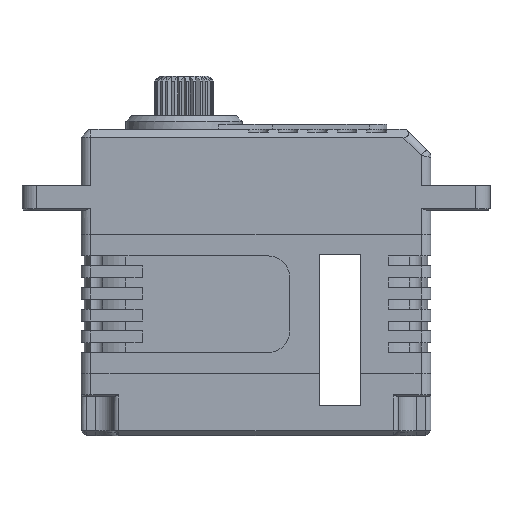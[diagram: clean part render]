
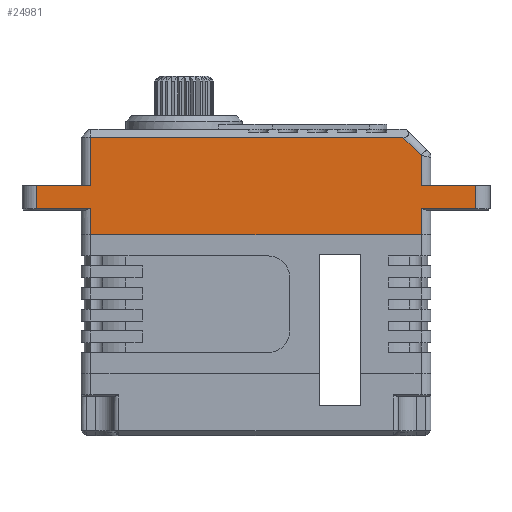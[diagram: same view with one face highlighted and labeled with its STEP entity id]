
A CAD part, front view. The second image highlights one B-rep face of the part: STEP entity #24981.
In plain terms, the highlighted planar face has unit normal (0, -1, 0).
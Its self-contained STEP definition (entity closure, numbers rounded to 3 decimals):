
#64 = ORIENTED_EDGE ( 'NONE', *, *, #11599, .F. ) ;
#111 = LINE ( 'NONE', #18619, #9368 ) ;
#465 = ORIENTED_EDGE ( 'NONE', *, *, #20512, .F. ) ;
#644 = VERTEX_POINT ( 'NONE', #13007 ) ;
#1227 = EDGE_CURVE ( 'NONE', #18849, #2101, #7349, .T. ) ;
#1274 = VERTEX_POINT ( 'NONE', #2397 ) ;
#1555 = DIRECTION ( 'NONE',  ( -1., 0., 0. ) ) ;
#1789 = AXIS2_PLACEMENT_3D ( 'NONE', #8162, #25172, #23428 ) ;
#2064 = VECTOR ( 'NONE', #9976, 1000. ) ;
#2101 = VERTEX_POINT ( 'NONE', #19856 ) ;
#2221 = DIRECTION ( 'NONE',  ( 0., 0., 1. ) ) ;
#2385 = DIRECTION ( 'NONE',  ( 1., 0., 0. ) ) ;
#2397 = CARTESIAN_POINT ( 'NONE',  ( -36.05, -4.874, 8.15 ) ) ;
#2658 = EDGE_CURVE ( 'NONE', #18849, #3050, #8868, .T. ) ;
#2711 = CARTESIAN_POINT ( 'NONE',  ( -30.55, -4.874, 10.5 ) ) ;
#2760 = ORIENTED_EDGE ( 'NONE', *, *, #4873, .T. ) ;
#2824 = CARTESIAN_POINT ( 'NONE',  ( -30.55, -4.874, 5.5 ) ) ;
#3050 = VERTEX_POINT ( 'NONE', #4105 ) ;
#3103 = ORIENTED_EDGE ( 'NONE', *, *, #12499, .T. ) ;
#3805 = VERTEX_POINT ( 'NONE', #6423 ) ;
#4105 = CARTESIAN_POINT ( 'NONE',  ( -75.05, -4.874, 8.15 ) ) ;
#4873 = EDGE_CURVE ( 'NONE', #17244, #25056, #20661, .T. ) ;
#5063 = LINE ( 'NONE', #8134, #26289 ) ;
#5482 = VERTEX_POINT ( 'NONE', #26456 ) ;
#6423 = CARTESIAN_POINT ( 'NONE',  ( -36.05, -4.874, 13.569 ) ) ;
#6494 = CARTESIAN_POINT ( 'NONE',  ( -36.05, -4.874, 5.5 ) ) ;
#6880 = VECTOR ( 'NONE', #23834, 1000. ) ;
#7205 = ORIENTED_EDGE ( 'NONE', *, *, #15274, .T. ) ;
#7349 = LINE ( 'NONE', #12612, #12368 ) ;
#7505 = LINE ( 'NONE', #8863, #23510 ) ;
#7744 = ORIENTED_EDGE ( 'NONE', *, *, #16196, .F. ) ;
#7822 = ORIENTED_EDGE ( 'NONE', *, *, #1227, .F. ) ;
#8134 = CARTESIAN_POINT ( 'NONE',  ( -70.55, -4.874, 15.4 ) ) ;
#8162 = CARTESIAN_POINT ( 'NONE',  ( -70.55, -4.874, 5.5 ) ) ;
#8863 = CARTESIAN_POINT ( 'NONE',  ( -69.55, -4.874, 10.5 ) ) ;
#8868 = LINE ( 'NONE', #26412, #27443 ) ;
#9000 = ORIENTED_EDGE ( 'NONE', *, *, #19468, .T. ) ;
#9368 = VECTOR ( 'NONE', #20471, 1000. ) ;
#9976 = DIRECTION ( 'NONE',  ( 0., 0., 1. ) ) ;
#10111 = LINE ( 'NONE', #19254, #25415 ) ;
#10236 = VERTEX_POINT ( 'NONE', #15387 ) ;
#10314 = PLANE ( 'NONE',  #1789 ) ;
#10345 = CARTESIAN_POINT ( 'NONE',  ( -70.55, -4.874, 8.15 ) ) ;
#10429 = DIRECTION ( 'NONE',  ( 1., 0., 0. ) ) ;
#11346 = DIRECTION ( 'NONE',  ( 0., 0., -1. ) ) ;
#11541 = VERTEX_POINT ( 'NONE', #20586 ) ;
#11599 = EDGE_CURVE ( 'NONE', #5482, #25356, #5063, .T. ) ;
#11929 = LINE ( 'NONE', #22117, #26818 ) ;
#12368 = VECTOR ( 'NONE', #14724, 1000. ) ;
#12492 = CARTESIAN_POINT ( 'NONE',  ( -69.55, -4.874, 5.5 ) ) ;
#12499 = EDGE_CURVE ( 'NONE', #3805, #25356, #11929, .T. ) ;
#12612 = CARTESIAN_POINT ( 'NONE',  ( -70.55, -4.874, 10.5 ) ) ;
#12982 = VECTOR ( 'NONE', #24357, 1000. ) ;
#13007 = CARTESIAN_POINT ( 'NONE',  ( -30.55, -4.874, 8.15 ) ) ;
#13357 = CARTESIAN_POINT ( 'NONE',  ( -36.05, -4.874, 5.5 ) ) ;
#13888 = ORIENTED_EDGE ( 'NONE', *, *, #22098, .T. ) ;
#13937 = EDGE_CURVE ( 'NONE', #1274, #644, #10111, .T. ) ;
#14232 = ORIENTED_EDGE ( 'NONE', *, *, #2658, .T. ) ;
#14724 = DIRECTION ( 'NONE',  ( 1., 0., 0. ) ) ;
#15274 = EDGE_CURVE ( 'NONE', #644, #17244, #15289, .T. ) ;
#15289 = LINE ( 'NONE', #2824, #12982 ) ;
#15387 = CARTESIAN_POINT ( 'NONE',  ( -69.55, -4.874, 5.5 ) ) ;
#16196 = EDGE_CURVE ( 'NONE', #2101, #5482, #7505, .T. ) ;
#16460 = CARTESIAN_POINT ( 'NONE',  ( -75.05, -4.874, 10.5 ) ) ;
#17108 = ORIENTED_EDGE ( 'NONE', *, *, #13937, .T. ) ;
#17244 = VERTEX_POINT ( 'NONE', #2711 ) ;
#17602 = ORIENTED_EDGE ( 'NONE', *, *, #24561, .T. ) ;
#18085 = FACE_OUTER_BOUND ( 'NONE', #19539, .T. ) ;
#18619 = CARTESIAN_POINT ( 'NONE',  ( -70.55, -4.874, 5.5 ) ) ;
#18849 = VERTEX_POINT ( 'NONE', #16460 ) ;
#19254 = CARTESIAN_POINT ( 'NONE',  ( -70.55, -4.874, 8.15 ) ) ;
#19468 = EDGE_CURVE ( 'NONE', #11541, #10236, #26072, .T. ) ;
#19539 = EDGE_LOOP ( 'NONE', ( #13888, #3103, #64, #7744, #7822, #14232, #17602, #9000, #465, #20780, #17108, #7205, #2760 ) ) ;
#19856 = CARTESIAN_POINT ( 'NONE',  ( -69.55, -4.874, 10.5 ) ) ;
#20471 = DIRECTION ( 'NONE',  ( -1., 0., 0. ) ) ;
#20512 = EDGE_CURVE ( 'NONE', #25486, #10236, #111, .T. ) ;
#20586 = CARTESIAN_POINT ( 'NONE',  ( -69.55, -4.874, 8.15 ) ) ;
#20661 = LINE ( 'NONE', #26644, #26934 ) ;
#20780 = ORIENTED_EDGE ( 'NONE', *, *, #24720, .T. ) ;
#22098 = EDGE_CURVE ( 'NONE', #25056, #3805, #25634, .T. ) ;
#22117 = CARTESIAN_POINT ( 'NONE',  ( -37.316, -4.874, 14.834 ) ) ;
#23129 = LINE ( 'NONE', #10345, #25412 ) ;
#23154 = CARTESIAN_POINT ( 'NONE',  ( -36.05, -4.874, 10.5 ) ) ;
#23165 = DIRECTION ( 'NONE',  ( 0., 0., -1. ) ) ;
#23428 = DIRECTION ( 'NONE',  ( 0., 0., 1. ) ) ;
#23510 = VECTOR ( 'NONE', #2221, 1000. ) ;
#23834 = DIRECTION ( 'NONE',  ( 0., 0., 1. ) ) ;
#24357 = DIRECTION ( 'NONE',  ( 0., 0., 1. ) ) ;
#24428 = VECTOR ( 'NONE', #23165, 1000. ) ;
#24505 = CARTESIAN_POINT ( 'NONE',  ( -36.05, -4.874, 5.5 ) ) ;
#24561 = EDGE_CURVE ( 'NONE', #3050, #11541, #23129, .T. ) ;
#24720 = EDGE_CURVE ( 'NONE', #25486, #1274, #26741, .T. ) ;
#24879 = DIRECTION ( 'NONE',  ( 1., 0., 0. ) ) ;
#24976 = CARTESIAN_POINT ( 'NONE',  ( -37.881, -4.874, 15.4 ) ) ;
#24981 = ADVANCED_FACE ( 'NONE', ( #18085 ), #10314, .F. ) ;
#25056 = VERTEX_POINT ( 'NONE', #23154 ) ;
#25172 = DIRECTION ( 'NONE',  ( 0., 1., 0. ) ) ;
#25356 = VERTEX_POINT ( 'NONE', #24976 ) ;
#25412 = VECTOR ( 'NONE', #10429, 1000. ) ;
#25415 = VECTOR ( 'NONE', #2385, 1000. ) ;
#25486 = VERTEX_POINT ( 'NONE', #6494 ) ;
#25634 = LINE ( 'NONE', #24505, #2064 ) ;
#26072 = LINE ( 'NONE', #12492, #24428 ) ;
#26289 = VECTOR ( 'NONE', #24879, 1000. ) ;
#26348 = DIRECTION ( 'NONE',  ( -0.707, 0., 0.707 ) ) ;
#26412 = CARTESIAN_POINT ( 'NONE',  ( -75.05, -4.874, 5.5 ) ) ;
#26456 = CARTESIAN_POINT ( 'NONE',  ( -69.55, -4.874, 15.4 ) ) ;
#26644 = CARTESIAN_POINT ( 'NONE',  ( -29.05, -4.874, 10.5 ) ) ;
#26741 = LINE ( 'NONE', #13357, #6880 ) ;
#26818 = VECTOR ( 'NONE', #26348, 1000. ) ;
#26934 = VECTOR ( 'NONE', #1555, 1000. ) ;
#27443 = VECTOR ( 'NONE', #11346, 1000. ) ;
